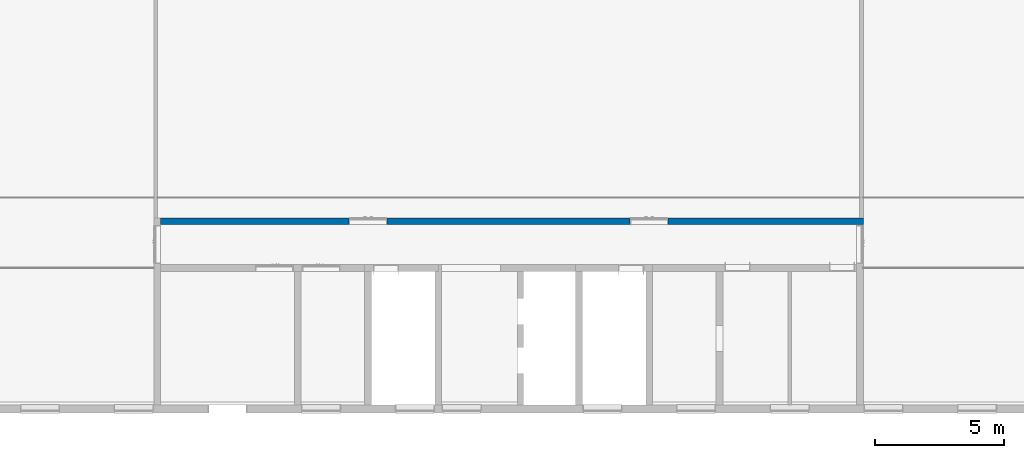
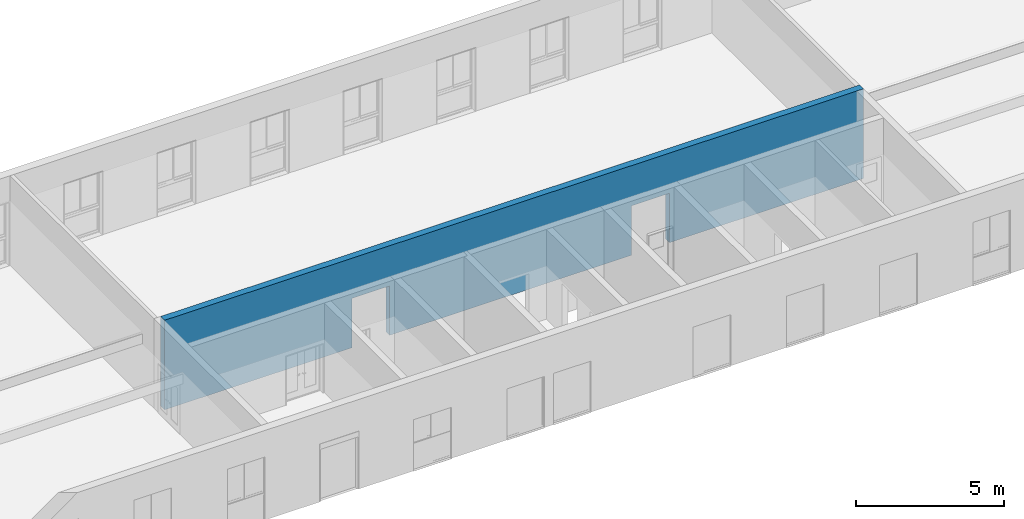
# One storey, part 8 of 15: 1 wall, 2 openings.
"""IFC4X3 building model written with IfcOpenShell, lengths in millimetres."""

from ifc_helpers import new_model, entity, si_unit, converted_unit, derived_unit, direction, frame, frame_2d, origin, place, context, subcontext, project, spatial, rectangle, extrude, material, layer, layer_set, type_object, element, save


model = new_model("IFC4X3")

# Units and contexts
model_context = context("Model", 3, precision=0.01, world=origin(), true_north=direction((6.12303176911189e-17, 1.0)))
body_context = subcontext(model_context, "Body", "Model", "MODEL_VIEW")
ifc_project = project(units=[si_unit("LENGTHUNIT", "METRE", prefix="MILLI"), si_unit("AREAUNIT", "SQUARE_METRE"), si_unit("VOLUMEUNIT", "CUBIC_METRE"), converted_unit("PLANEANGLEUNIT", "DEGREE", entity("IfcPlaneAngleMeasure", 0.0174532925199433), si_unit("PLANEANGLEUNIT", "RADIAN"), dimensions=[0, 0, 0, 0, 0, 0, 0]), si_unit("MASSUNIT", "GRAM", prefix="KILO"), derived_unit("MASSDENSITYUNIT", [(si_unit("MASSUNIT", "GRAM", prefix="KILO"), 1), (si_unit("LENGTHUNIT", "METRE"), -3)]), derived_unit("IONCONCENTRATIONUNIT", [(si_unit("MASSUNIT", "GRAM", prefix="KILO"), 1), (si_unit("LENGTHUNIT", "METRE"), -3)]), derived_unit("MOMENTOFINERTIAUNIT", [(si_unit("LENGTHUNIT", "METRE"), 4)]), si_unit("TIMEUNIT", "SECOND"), si_unit("FREQUENCYUNIT", "HERTZ"), si_unit("THERMODYNAMICTEMPERATUREUNIT", "DEGREE_CELSIUS"), derived_unit("THERMALTRANSMITTANCEUNIT", [(si_unit("MASSUNIT", "GRAM", prefix="KILO"), 1), (si_unit("THERMODYNAMICTEMPERATUREUNIT", "KELVIN"), -1), (si_unit("TIMEUNIT", "SECOND"), -3)]), derived_unit("THERMALCONDUCTANCEUNIT", [(si_unit("MASSUNIT", "GRAM", prefix="KILO"), 1), (si_unit("THERMODYNAMICTEMPERATUREUNIT", "KELVIN"), -1), (si_unit("TIMEUNIT", "SECOND"), -3), (si_unit("LENGTHUNIT", "METRE"), 1)]), derived_unit("VOLUMETRICFLOWRATEUNIT", [(si_unit("LENGTHUNIT", "METRE", prefix="DECI"), 3), (si_unit("TIMEUNIT", "SECOND"), -1)]), derived_unit("MASSFLOWRATEUNIT", [(si_unit("MASSUNIT", "GRAM", prefix="KILO"), 1), (si_unit("TIMEUNIT", "SECOND"), -1)]), derived_unit("ROTATIONALFREQUENCYUNIT", [(si_unit("TIMEUNIT", "SECOND"), -1)]), si_unit("ELECTRICCURRENTUNIT", "AMPERE"), si_unit("ELECTRICVOLTAGEUNIT", "VOLT"), si_unit("POWERUNIT", "WATT"), si_unit("FORCEUNIT", "NEWTON", prefix="KILO"), si_unit("ILLUMINANCEUNIT", "LUX"), si_unit("LUMINOUSFLUXUNIT", "LUMEN"), si_unit("LUMINOUSINTENSITYUNIT", "CANDELA"), si_unit("ENERGYUNIT", "JOULE"), derived_unit("USERDEFINED", [(si_unit("MASSUNIT", "GRAM", prefix="KILO"), -1), (si_unit("LENGTHUNIT", "METRE"), -2), (si_unit("TIMEUNIT", "SECOND"), 3), (si_unit("LUMINOUSFLUXUNIT", "LUMEN"), 1)]), derived_unit("USERDEFINED", [(si_unit("MASSUNIT", "GRAM", prefix="KILO"), 1), (si_unit("TIMEUNIT", "SECOND"), -3), (si_unit("LENGTHUNIT", "METRE"), 3), (si_unit("ELECTRICCURRENTUNIT", "AMPERE"), -2)]), derived_unit("SOUNDPOWERUNIT", [(si_unit("MASSUNIT", "GRAM", prefix="KILO"), 1), (si_unit("TIMEUNIT", "SECOND"), -3), (si_unit("LENGTHUNIT", "METRE"), 2)]), derived_unit("SOUNDPRESSUREUNIT", [(si_unit("MASSUNIT", "GRAM", prefix="KILO"), 1), (si_unit("LENGTHUNIT", "METRE"), -1), (si_unit("TIMEUNIT", "SECOND"), -2)]), derived_unit("LINEARVELOCITYUNIT", [(si_unit("LENGTHUNIT", "METRE"), 1), (si_unit("TIMEUNIT", "SECOND"), -1)]), si_unit("PRESSUREUNIT", "PASCAL"), derived_unit("USERDEFINED", [(si_unit("MASSUNIT", "GRAM", prefix="KILO"), 1), (si_unit("LENGTHUNIT", "METRE"), -2), (si_unit("TIMEUNIT", "SECOND"), -2)]), derived_unit("LINEARFORCEUNIT", [(si_unit("MASSUNIT", "GRAM", prefix="KILO"), 1), (si_unit("TIMEUNIT", "SECOND"), -2)]), derived_unit("PLANARFORCEUNIT", [(si_unit("MASSUNIT", "GRAM", prefix="KILO"), 1), (si_unit("LENGTHUNIT", "METRE"), -1), (si_unit("TIMEUNIT", "SECOND"), -2)]), derived_unit("SPECIFICHEATCAPACITYUNIT", [(si_unit("THERMODYNAMICTEMPERATUREUNIT", "KELVIN"), -1), (si_unit("LENGTHUNIT", "METRE"), 2), (si_unit("TIMEUNIT", "SECOND"), -2)]), derived_unit("HEATFLUXDENSITYUNIT", [(si_unit("MASSUNIT", "GRAM", prefix="KILO"), 1), (si_unit("TIMEUNIT", "SECOND"), -3)]), derived_unit("HEATINGVALUEUNIT", [(si_unit("LENGTHUNIT", "METRE"), 2), (si_unit("TIMEUNIT", "SECOND"), -2)]), derived_unit("VAPORPERMEABILITYUNIT", [(si_unit("LENGTHUNIT", "METRE"), -1), (si_unit("TIMEUNIT", "SECOND"), 1)]), derived_unit("DYNAMICVISCOSITYUNIT", [(si_unit("MASSUNIT", "GRAM", prefix="KILO"), 1), (si_unit("TIMEUNIT", "SECOND"), -1), (si_unit("LENGTHUNIT", "METRE"), -1)]), derived_unit("THERMALEXPANSIONCOEFFICIENTUNIT", [(si_unit("THERMODYNAMICTEMPERATUREUNIT", "KELVIN"), -1)]), derived_unit("MODULUSOFELASTICITYUNIT", [(si_unit("MASSUNIT", "GRAM", prefix="KILO"), 1), (si_unit("LENGTHUNIT", "METRE"), -1), (si_unit("TIMEUNIT", "SECOND"), -2)]), derived_unit("ISOTHERMALMOISTURECAPACITYUNIT", [(si_unit("MASSUNIT", "GRAM", prefix="KILO"), -1), (si_unit("LENGTHUNIT", "METRE"), 3)]), derived_unit("MOISTUREDIFFUSIVITYUNIT", [(si_unit("TIMEUNIT", "SECOND"), -1), (si_unit("LENGTHUNIT", "METRE"), 2)]), derived_unit("AREADENSITYUNIT", [(si_unit("MASSUNIT", "GRAM", prefix="KILO"), 1), (si_unit("LENGTHUNIT", "METRE"), 2)]), derived_unit("MASSPERLENGTHUNIT", [(si_unit("MASSUNIT", "GRAM", prefix="KILO"), 1), (si_unit("LENGTHUNIT", "METRE"), -1)]), derived_unit("THERMALRESISTANCEUNIT", [(si_unit("MASSUNIT", "GRAM", prefix="KILO"), -1), (si_unit("TIMEUNIT", "SECOND"), 3), (si_unit("THERMODYNAMICTEMPERATUREUNIT", "KELVIN"), 1)]), derived_unit("ACCELERATIONUNIT", [(si_unit("LENGTHUNIT", "METRE"), 1), (si_unit("TIMEUNIT", "SECOND"), -2)]), derived_unit("ANGULARVELOCITYUNIT", [(si_unit("TIMEUNIT", "SECOND"), -1), (si_unit("PLANEANGLEUNIT", "RADIAN"), 1)]), derived_unit("LINEARSTIFFNESSUNIT", [(si_unit("MASSUNIT", "GRAM", prefix="KILO"), 1), (si_unit("TIMEUNIT", "SECOND"), -2)]), derived_unit("WARPINGCONSTANTUNIT", [(si_unit("LENGTHUNIT", "METRE"), 6)]), derived_unit("LINEARMOMENTUNIT", [(si_unit("MASSUNIT", "GRAM", prefix="KILO"), 1), (si_unit("LENGTHUNIT", "METRE"), 1), (si_unit("TIMEUNIT", "SECOND"), -2)]), derived_unit("TORQUEUNIT", [(si_unit("MASSUNIT", "GRAM", prefix="KILO"), 1), (si_unit("LENGTHUNIT", "METRE"), 2), (si_unit("TIMEUNIT", "SECOND"), -2)])], contexts=[model_context])

# Site, building, storey
site_placement = place(None, origin())
site = spatial("IfcSite", under=ifc_project, at=site_placement, Name="Default", CompositionType="ELEMENT")
building_placement = place(site_placement, origin())
building = spatial("IfcBuilding", under=site, at=building_placement, Name="事務所ビル", CompositionType="ELEMENT")
storey_placement = place(building_placement, frame((0.0, 0.0, 4300.0)))
storey = spatial("IfcBuildingStorey", under=building, at=storey_placement, Name="2FL", CompositionType="ELEMENT", Elevation=4300.0)

# Wall, openings
ifc_material_1 = material(Name="せっこうボード", Category="一般")
ifc_layer_1 = layer(ifc_material_1, 15.0, Name="せっこうボード", Category="一般")
ifc_material_2 = material(Name="合板", Category="一般")
ifc_layer_2 = layer(ifc_material_2, 12.0, Name="合板", Category="一般")
ifc_material_3 = material(Name="天然木材", Category="一般")
ifc_layer_3 = layer(ifc_material_3, 210.0, Name="天然木材", Category="一般")
ifc_layer_4 = layer(ifc_material_2, 12.0, Name="合板", Category="一般")
ifc_layer_5 = layer(ifc_material_1, 15.0, Name="せっこうボード", Category="一般")
ifc_layer_set = layer_set([ifc_layer_1, ifc_layer_2, ifc_layer_3, ifc_layer_4, ifc_layer_5], Name="標準壁:GB-R15_構造用合板12_木210_構造用合板12_GB-R15")
wall_type = type_object("IfcWallType", Name="標準壁:GB-R15_構造用合板12_木210_構造用合板12_GB-R15", PredefinedType="STANDARD", material=ifc_layer_set)
wall_placement = place(storey_placement, frame((11052.0, 7280.0, 0.0)))
wall = element("IfcWall", 1, at=wall_placement, inside=storey, type_object=wall_type, material=ifc_layer_set, Name="標準壁:GB-R15_構造用合板12_木210_構造用合板12_GB-R15", ObjectType="標準壁:GB-R15_構造用合板12_木210_構造用合板12_GB-R15", PredefinedType="NOTDEFINED", context=body_context, shape_type="SweptSolid", body=[
    extrude(rectangle(XDim=27300.0, YDim=264.000000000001, at=frame_2d((13650.0, 0.0), x_axis=(-1.0, 0.0))), origin(), (0.0, 0.0, 1.0), 3700.0),
])
opening_1_placement = place(wall_placement, frame((7318.0, -132.0, -15.0)))
element("IfcOpeningElement", 2, at=opening_1_placement, cuts=wall, Name="鋼製_大枠_両開き_框:1400x2000:1", PredefinedType="OPENING", context=body_context, shape_type="SweptSolid", body=[
    extrude(rectangle(XDim=2055.00000000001, YDim=1480.0, at=frame_2d((1027.5, 740.0), x_axis=(-1.0, 0.0))), frame((0.0, 0.0, 0.0), z_axis=(0.0, 1.0, 0.0), x_axis=(0.0, 0.0, 1.0)), (0.0, 0.0, 1.0), 264.0),
])
opening_2_placement = place(wall_placement, frame((18238.0, -132.0, -15.0)))
element("IfcOpeningElement", 3, at=opening_2_placement, cuts=wall, Name="鋼製_大枠_両開き_框:1400x2000:1", PredefinedType="OPENING", context=body_context, shape_type="SweptSolid", body=[
    extrude(rectangle(XDim=2055.00000000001, YDim=1480.0, at=frame_2d((1027.5, 740.000000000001), x_axis=(-1.0, 0.0))), frame((0.0, 0.0, 0.0), z_axis=(0.0, 1.0, 0.0), x_axis=(0.0, 0.0, 1.0)), (0.0, 0.0, 1.0), 264.0),
])

save(model, "model.ifc")
